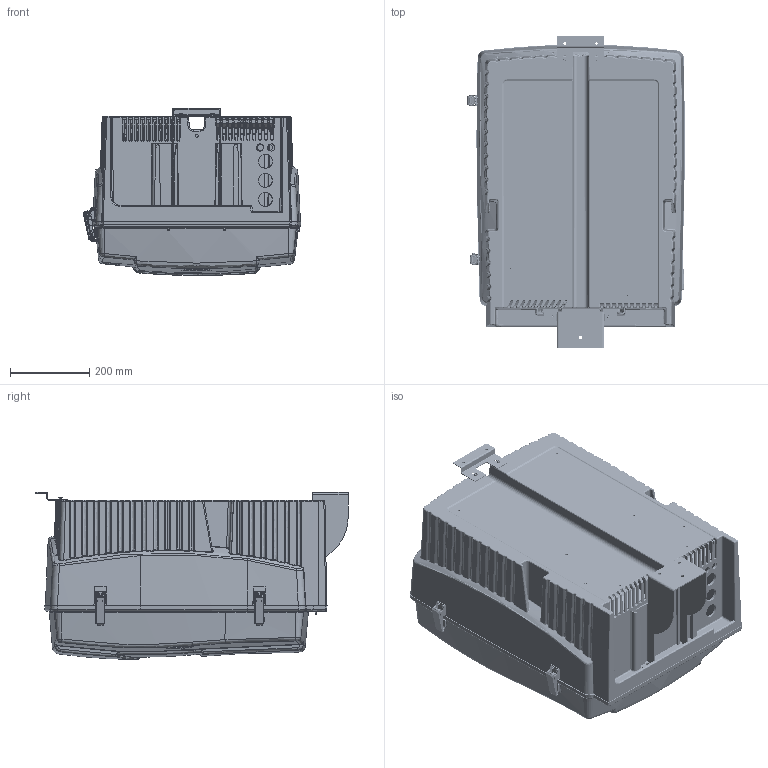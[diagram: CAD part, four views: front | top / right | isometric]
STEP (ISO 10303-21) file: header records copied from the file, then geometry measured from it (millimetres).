
FILE_DESCRIPTION (( 'STEP AP203' ), '1' );
FILE_NAME ('LXV422_TD_00000__001.STEP', '2015-09-24T10:21:54', ( 'Hach Lange' ), ( 'Hach Lange' ), 'SwSTEP 2.0', 'SolidWorks 2014', '' );
FILE_SCHEMA (( 'CONFIG_CONTROL_DESIGN' ));
Length unit declared in the file: millimetre
Products named in the file (37): EVQ228#02_Mutter; OAT001_Tür Aussengehäuse; EVQ233#03_Spannverschluss; EVV047_Magnet_ohne schraegen Kabelkanal; EVQ228#06_Verschluss; HHE039_Isoliereinsatz, T黵; EVQ233#02_Spannverschluss; EZD250_Dichtungsprofil; plain washer normal grade a_iso_Washer ISO 7089 - 8; HPP557_Schutzplatte; EVQ233#01_Spannverschluss; HVQ874_Konsole; socket head cap screw_iso_ISO 4762 M4 x 6 --- 6N; OAT002_Tür Innengehäuse; EVQ233_Spannverschluss; HWB062_Befestigungswinkel; EVQ228_Zylinderschloss; EVQ234_Mitnehmer Spannverschluss_SOLID; pan head cross recess screw_iso_ISO 7045 - M4 x 20 - Z --- 20N; OAG296_Aussengehäuse; socket head cap screw_iso_ISO 4762 M5 x 8 --- 8N; HOB150_Schlossblende_SOLID; HVQ868_Zylinderschlossverlängerung; ERS270_Schraube f黵 Kunststoff 4,0 x 20; HHE038_Isoliereinsatz, Gehäuse; countersunk flat head cross recess screw_iso_ISO 7046-1 - M3 x 12 - Z --- 12N; EVQ228#02_Verschluss_SOLID; HVQ866_Lichtleitstab_SOLID; ERS261_Schraube f黵 Kunststoff 4,0 x 35; OAG297_Innengehäuse; socket head cap screw_iso_ISO 4762 M5 x 40 --- 22N; BVQ865_T黵 (AMTAX sc); EVQ228#01_Schlosskörper; BVQ057_Gehäuse; HVQ858_Scharnierblech; LXV422_TD_00000__001; EVQ229_Türscharnier, links - Edelstahl_geschlossen
Assembly tree (82 placements, depth 4):
  LXV422_TD_00000__001
    BVQ057_Gehäuse
      OAG296_Aussengehäuse
      HHE038_Isoliereinsatz, Gehäuse
      OAG297_Innengehäuse
      HVQ858_Scharnierblech  x2
      EVQ233_Spannverschluss  x2
        EVQ233#03_Spannverschluss
        EVQ233#02_Spannverschluss
        EVQ233#01_Spannverschluss
      pan head cross recess screw_iso_ISO 7045 - M4 x 20 - Z --- 20N  x6
      ERS270_Schraube f黵 Kunststoff 4,0 x 20  x5
      ERS261_Schraube f黵 Kunststoff 4,0 x 35  x14
    BVQ865_T黵 (AMTAX sc)
      OAT001_Tür Aussengehäuse
      HHE039_Isoliereinsatz, T黵
      HPP557_Schutzplatte
      OAT002_Tür Innengehäuse
      EVQ234_Mitnehmer Spannverschluss_SOLID  x2
      HVQ868_Zylinderschlossverlängerung
      HVQ866_Lichtleitstab_SOLID
      EVQ228_Zylinderschloss
        EVQ228#01_Schlosskörper
        EVQ228#02_Mutter
        EVQ228#06_Verschluss
        plain washer normal grade a_iso_Washer ISO 7089 - 8
        socket head cap screw_iso_ISO 4762 M4 x 6 --- 6N
      HOB150_Schlossblende_SOLID
      EVQ228#02_Verschluss_SOLID
    EVQ229_Türscharnier, links - Edelstahl_geschlossen  x3
    EVV047_Magnet_ohne schraegen Kabelkanal
    EZD250_Dichtungsprofil
    HVQ874_Konsole
    HWB062_Befestigungswinkel
    socket head cap screw_iso_ISO 4762 M5 x 8 --- 8N  x2
    countersunk flat head cross recess screw_iso_ISO 7046-1 - M3 x 12 - Z --- 12N  x18
    socket head cap screw_iso_ISO 4762 M5 x 40 --- 22N  x2
Bounding box: 547.74 x 786.5 x 420.44 mm (x, y, z)
Volume: 38833092.6 mm3; surface area: 9371074.8 mm2
Topology: 77 solids, 82 shells, 8608 faces, 21922 edges, 13638 vertices
Faces by surface type: plane 2797, cone 2044, cylinder 1674, bspline 1508, torus 502, sphere 83
Entity records: 335220 total; most frequent: CARTESIAN_POINT 178684, ORIENTED_EDGE 34975, DIRECTION 27333, EDGE_CURVE 17505, VERTEX_POINT 10948, AXIS2_PLACEMENT_3D 10481, EDGE_LOOP 7520, ADVANCED_FACE 6870
